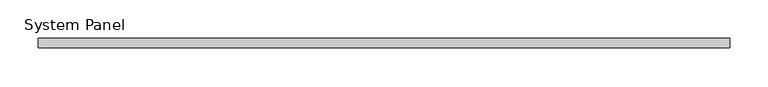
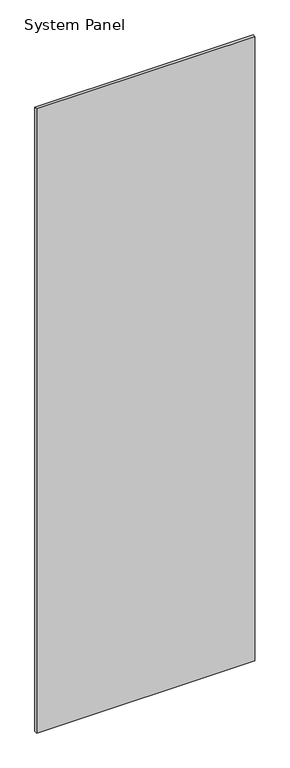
"""IFC4 building model written with IfcOpenShell, lengths in millimetres: plate geometry, System Panel : CR-BARANDA."""

from ifc_helpers import new_model, si_unit, origin, origin_with_axes, place, context, project, spatial, polyline, outline, extrude, source, transform, mapped, element, save


def system_panel_d16f8cfc(model_context):
    return source(origin(), model_context, "Body", "SweptSolid", [
        extrude(outline(polyline([(450.0, -6.25), (-450.0, -6.25), (-450.0, 6.25), (450.0, 6.25), (450.0, -6.25)])), origin_with_axes(), (0.0, 0.0, 1.0), 2720.0),
    ])


if __name__ == "__main__":
    model = new_model("IFC4")
    model_context = context("Model", 3, world=origin())
    ifc_project = project(units=[si_unit("LENGTHUNIT", "METRE", prefix="MILLI")], contexts=[model_context])
    site = spatial("IfcSite", under=ifc_project)
    building = spatial("IfcBuilding", under=site)
    placement = place(None, origin())
    system_panel_shape = system_panel_d16f8cfc(model_context)
    element("IfcPlate", 1, ObjectType="System Panel : CR-BARANDA", at=placement, inside=building, context=model_context, shape_type="MappedRepresentation", body=[
        mapped(system_panel_shape, transform((0.0, 0.0, 0.0), x_axis=(1.0, 0.0, 0.0), y_axis=(0.0, 1.0, 0.0), z_axis=(0.0, 0.0, 1.0))),
    ])
    save(model, "model.ifc")
